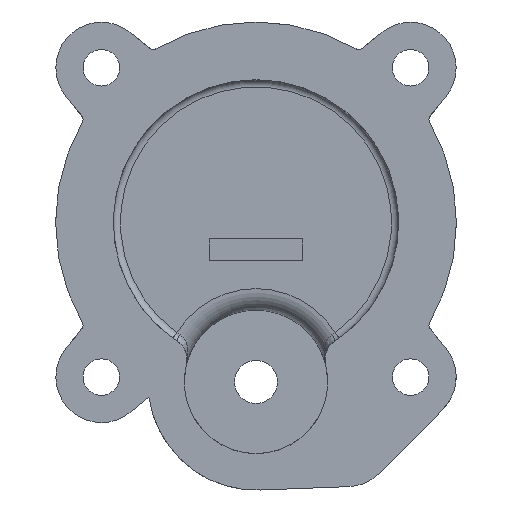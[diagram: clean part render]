
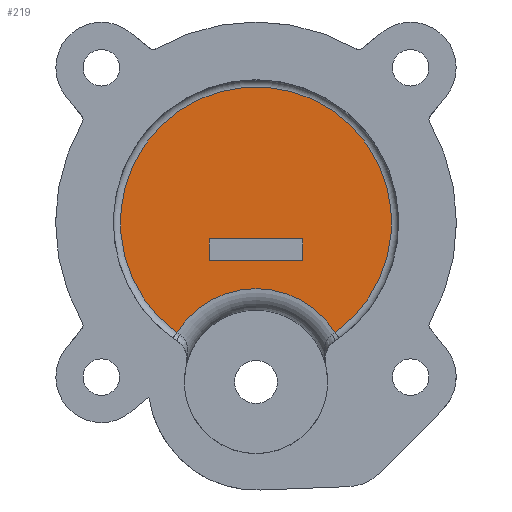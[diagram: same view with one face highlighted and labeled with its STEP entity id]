
A CAD part, front view. The second image highlights one B-rep face of the part: STEP entity #219.
In plain terms, the highlighted planar face has unit normal (0, -1, 0).
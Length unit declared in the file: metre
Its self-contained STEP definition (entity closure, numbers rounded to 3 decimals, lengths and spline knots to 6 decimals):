
#219 = ADVANCED_FACE( '', ( #622, #623 ), #624, .T. );
#622 = FACE_OUTER_BOUND( '', #10616, .T. );
#623 = FACE_BOUND( '', #10617, .T. );
#624 = PLANE( '', #10618 );
#10616 = EDGE_LOOP( '', ( #12953, #12954 ) );
#10617 = EDGE_LOOP( '', ( #12955, #12956, #12957, #12958 ) );
#10618 = AXIS2_PLACEMENT_3D( '', #12959, #12960, #12961 );
#12953 = ORIENTED_EDGE( '', *, *, #13519, .T. );
#12954 = ORIENTED_EDGE( '', *, *, #13520, .T. );
#12955 = ORIENTED_EDGE( '', *, *, #13521, .T. );
#12956 = ORIENTED_EDGE( '', *, *, #13133, .T. );
#12957 = ORIENTED_EDGE( '', *, *, #13135, .T. );
#12958 = ORIENTED_EDGE( '', *, *, #13518, .T. );
#12959 = CARTESIAN_POINT( '', ( 0., 0.005, 0. ) );
#12960 = DIRECTION( '', ( 0., -1., 0. ) );
#12961 = DIRECTION( '', ( 0.867, 0., 0.499 ) );
#13133 = EDGE_CURVE( '', #13572, #13581, #13583, .T. );
#13135 = EDGE_CURVE( '', #13581, #13584, #13586, .T. );
#13518 = EDGE_CURVE( '', #13584, #14200, #14202, .T. );
#13519 = EDGE_CURVE( '', #14203, #14204, #14205, .F. );
#13520 = EDGE_CURVE( '', #14204, #14203, #14206, .T. );
#13521 = EDGE_CURVE( '', #14200, #13572, #14207, .T. );
#13572 = VERTEX_POINT( '', #14274 );
#13581 = VERTEX_POINT( '', #14286 );
#13583 = LINE( '', #14289, #14290 );
#13584 = VERTEX_POINT( '', #14291 );
#13586 = LINE( '', #14294, #14295 );
#14200 = VERTEX_POINT( '', #16300 );
#14202 = LINE( '', #16303, #16304 );
#14203 = VERTEX_POINT( '', #16305 );
#14204 = VERTEX_POINT( '', #16306 );
#14205 = CIRCLE( '', #16307, 0.013 );
#14206 = CIRCLE( '', #16308, 0.018899 );
#14207 = LINE( '', #16309, #16310 );
#14274 = CARTESIAN_POINT( '', ( 0.006509, 0.005, -0.005294 ) );
#14286 = CARTESIAN_POINT( '', ( -0.006509, 0.005, -0.005294 ) );
#14289 = CARTESIAN_POINT( '', ( 0., 0.005, -0.005294 ) );
#14290 = VECTOR( '', #16802, 1. );
#14291 = CARTESIAN_POINT( '', ( -0.006509, 0.005, -0.002294 ) );
#14294 = CARTESIAN_POINT( '', ( -0.006509, 0.005, 0. ) );
#14295 = VECTOR( '', #16804, 1. );
#16300 = CARTESIAN_POINT( '', ( 0.006509, 0.005, -0.002294 ) );
#16303 = CARTESIAN_POINT( '', ( 0., 0.005, -0.002294 ) );
#16304 = VECTOR( '', #17429, 1. );
#16305 = CARTESIAN_POINT( '', ( -0.011031, 0.005, -0.015346 ) );
#16306 = CARTESIAN_POINT( '', ( 0.011031, 0.005, -0.015346 ) );
#16307 = AXIS2_PLACEMENT_3D( '', #17430, #17431, #17432 );
#16308 = AXIS2_PLACEMENT_3D( '', #17433, #17434, #17435 );
#16309 = CARTESIAN_POINT( '', ( 0.006509, 0.005, 0. ) );
#16310 = VECTOR( '', #17436, 1. );
#16802 = DIRECTION( '', ( -1., 0., 0. ) );
#16804 = DIRECTION( '', ( 0., 0., 1. ) );
#17429 = DIRECTION( '', ( 1., 0., 0. ) );
#17430 = CARTESIAN_POINT( '', ( 0., 0.005, -0.022225 ) );
#17431 = DIRECTION( '', ( 0., -1., 0. ) );
#17432 = DIRECTION( '', ( 0., 0., -1. ) );
#17433 = CARTESIAN_POINT( '', ( 0., 0.005, 0. ) );
#17434 = DIRECTION( '', ( 0., -1., 0. ) );
#17435 = DIRECTION( '', ( 0., 0., -1. ) );
#17436 = DIRECTION( '', ( 0., 0., -1. ) );
